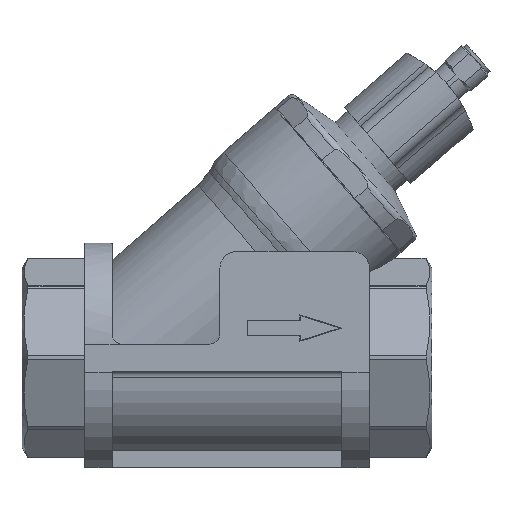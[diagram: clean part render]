
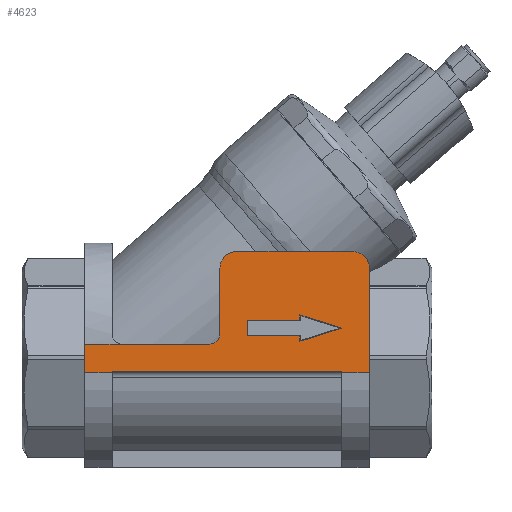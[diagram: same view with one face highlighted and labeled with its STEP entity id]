
A CAD part, top view. The second image highlights one B-rep face of the part: STEP entity #4623.
In plain terms, the highlighted planar face has unit normal (0, 0, 1).
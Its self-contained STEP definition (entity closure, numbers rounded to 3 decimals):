
#48=PLANE('',#4902);
#227=LINE('',#6169,#454);
#258=LINE('',#6426,#485);
#263=LINE('',#6457,#490);
#267=LINE('',#6489,#494);
#302=LINE('',#6803,#529);
#303=LINE('',#6806,#530);
#304=LINE('',#6808,#531);
#305=LINE('',#6810,#532);
#306=LINE('',#6812,#533);
#307=LINE('',#6814,#534);
#308=LINE('',#6816,#535);
#309=LINE('',#6817,#536);
#310=LINE('',#6820,#537);
#311=LINE('',#6822,#538);
#312=LINE('',#6824,#539);
#313=LINE('',#6825,#540);
#314=LINE('',#6827,#541);
#315=LINE('',#6828,#542);
#454=VECTOR('',#5179,1000.);
#485=VECTOR('',#5310,1000.);
#490=VECTOR('',#5327,1000.);
#494=VECTOR('',#5343,1000.);
#529=VECTOR('',#5484,1000.);
#530=VECTOR('',#5485,1000.);
#531=VECTOR('',#5486,1000.);
#532=VECTOR('',#5487,1000.);
#533=VECTOR('',#5488,1000.);
#534=VECTOR('',#5489,1000.);
#535=VECTOR('',#5490,1000.);
#536=VECTOR('',#5491,1000.);
#537=VECTOR('',#5492,1000.);
#538=VECTOR('',#5493,1000.);
#539=VECTOR('',#5494,1000.);
#540=VECTOR('',#5495,1000.);
#541=VECTOR('',#5496,1000.);
#542=VECTOR('',#5497,1000.);
#917=ORIENTED_EDGE('',*,*,#1888,.F.);
#918=ORIENTED_EDGE('',*,*,#1889,.F.);
#919=ORIENTED_EDGE('',*,*,#1890,.F.);
#920=ORIENTED_EDGE('',*,*,#1891,.F.);
#921=ORIENTED_EDGE('',*,*,#1892,.F.);
#922=ORIENTED_EDGE('',*,*,#1893,.F.);
#923=ORIENTED_EDGE('',*,*,#1894,.F.);
#924=ORIENTED_EDGE('',*,*,#1895,.F.);
#925=ORIENTED_EDGE('',*,*,#1896,.T.);
#926=ORIENTED_EDGE('',*,*,#1897,.F.);
#927=ORIENTED_EDGE('',*,*,#1898,.F.);
#928=ORIENTED_EDGE('',*,*,#1799,.T.);
#929=ORIENTED_EDGE('',*,*,#1789,.F.);
#930=ORIENTED_EDGE('',*,*,#1781,.T.);
#931=ORIENTED_EDGE('',*,*,#1779,.F.);
#932=ORIENTED_EDGE('',*,*,#1772,.F.);
#933=ORIENTED_EDGE('',*,*,#1769,.F.);
#934=ORIENTED_EDGE('',*,*,#1899,.T.);
#935=ORIENTED_EDGE('',*,*,#1900,.T.);
#936=ORIENTED_EDGE('',*,*,#1687,.F.);
#937=ORIENTED_EDGE('',*,*,#1901,.F.);
#1687=EDGE_CURVE('',#2181,#2183,#227,.T.);
#1769=EDGE_CURVE('',#2249,#2257,#258,.T.);
#1772=EDGE_CURVE('',#2257,#2259,#2543,.F.);
#1779=EDGE_CURVE('',#2259,#2265,#263,.T.);
#1781=EDGE_CURVE('',#2268,#2265,#2545,.F.);
#1789=EDGE_CURVE('',#2268,#2275,#267,.T.);
#1799=EDGE_CURVE('',#2284,#2275,#2548,.F.);
#1888=EDGE_CURVE('',#2362,#2363,#302,.T.);
#1889=EDGE_CURVE('',#2364,#2362,#303,.T.);
#1890=EDGE_CURVE('',#2365,#2364,#304,.T.);
#1891=EDGE_CURVE('',#2366,#2365,#305,.T.);
#1892=EDGE_CURVE('',#2367,#2366,#306,.T.);
#1893=EDGE_CURVE('',#2368,#2367,#307,.T.);
#1894=EDGE_CURVE('',#2363,#2368,#308,.T.);
#1895=EDGE_CURVE('',#2369,#2370,#309,.T.);
#1896=EDGE_CURVE('',#2369,#2371,#310,.T.);
#1897=EDGE_CURVE('',#2372,#2371,#311,.T.);
#1898=EDGE_CURVE('',#2284,#2372,#312,.T.);
#1899=EDGE_CURVE('',#2249,#2373,#313,.T.);
#1900=EDGE_CURVE('',#2373,#2183,#314,.T.);
#1901=EDGE_CURVE('',#2370,#2181,#315,.T.);
#2181=VERTEX_POINT('',#6167);
#2183=VERTEX_POINT('',#6170);
#2249=VERTEX_POINT('',#6389);
#2257=VERTEX_POINT('',#6423);
#2259=VERTEX_POINT('',#6429);
#2265=VERTEX_POINT('',#6454);
#2268=VERTEX_POINT('',#6466);
#2275=VERTEX_POINT('',#6490);
#2284=VERTEX_POINT('',#6527);
#2362=VERTEX_POINT('',#6804);
#2363=VERTEX_POINT('',#6805);
#2364=VERTEX_POINT('',#6807);
#2365=VERTEX_POINT('',#6809);
#2366=VERTEX_POINT('',#6811);
#2367=VERTEX_POINT('',#6813);
#2368=VERTEX_POINT('',#6815);
#2369=VERTEX_POINT('',#6818);
#2370=VERTEX_POINT('',#6819);
#2371=VERTEX_POINT('',#6821);
#2372=VERTEX_POINT('',#6823);
#2373=VERTEX_POINT('',#6826);
#2543=CIRCLE('',#4839,3.);
#2545=CIRCLE('',#4845,5.);
#2548=CIRCLE('',#4855,5.);
#2717=EDGE_LOOP('',(#917,#918,#919,#920,#921,#922,#923));
#2718=EDGE_LOOP('',(#924,#925,#926,#927,#928,#929,#930,#931,#932,#933,#934,
#935,#936,#937));
#2943=FACE_BOUND('',#2717,.T.);
#2944=FACE_BOUND('',#2718,.T.);
#4623=ADVANCED_FACE('',(#2943,#2944),#48,.F.);
#4839=AXIS2_PLACEMENT_3D('',#6437,#5314,#5315);
#4845=AXIS2_PLACEMENT_3D('',#6465,#5330,#5331);
#4855=AXIS2_PLACEMENT_3D('',#6526,#5357,#5358);
#4902=AXIS2_PLACEMENT_3D('',#6802,#5482,#5483);
#5179=DIRECTION('',(-1.,0.,0.));
#5310=DIRECTION('',(1.,0.,0.));
#5314=DIRECTION('',(0.,0.,-1.));
#5315=DIRECTION('',(-1.,0.,0.));
#5327=DIRECTION('',(0.,1.,0.));
#5330=DIRECTION('',(0.,0.,-1.));
#5331=DIRECTION('',(-1.,0.,0.));
#5343=DIRECTION('',(1.,0.,0.));
#5357=DIRECTION('',(0.,0.,-1.));
#5358=DIRECTION('',(-1.,0.,0.));
#5482=DIRECTION('',(0.,0.,-1.));
#5483=DIRECTION('',(-1.,0.,0.));
#5484=DIRECTION('',(1.,0.,0.));
#5485=DIRECTION('',(0.,-1.,0.));
#5486=DIRECTION('',(-1.,0.,0.));
#5487=DIRECTION('',(0.,-1.,0.));
#5488=DIRECTION('',(-0.954,0.301,0.));
#5489=DIRECTION('',(0.954,0.301,0.));
#5490=DIRECTION('',(0.,-1.,0.));
#5491=DIRECTION('',(-1.,0.,0.));
#5492=DIRECTION('',(0.,-1.,0.));
#5493=DIRECTION('',(-1.,0.,0.));
#5494=DIRECTION('',(0.,-1.,0.));
#5495=DIRECTION('',(-1.,0.,0.));
#5496=DIRECTION('',(0.,-1.,0.));
#5497=DIRECTION('',(0.,-1.,0.));
#6167=CARTESIAN_POINT('',(26.79,-4.541,30.));
#6169=CARTESIAN_POINT('',(102.95,-4.541,30.));
#6170=CARTESIAN_POINT('',(18.55,-4.541,30.));
#6389=CARTESIAN_POINT('',(29.7,4.,30.));
#6423=CARTESIAN_POINT('',(55.668,4.,30.));
#6426=CARTESIAN_POINT('',(102.95,4.,30.));
#6429=CARTESIAN_POINT('',(58.668,7.,30.));
#6437=CARTESIAN_POINT('',(55.668,7.,30.));
#6454=CARTESIAN_POINT('',(58.668,26.46,30.));
#6457=CARTESIAN_POINT('',(58.668,35.,30.));
#6465=CARTESIAN_POINT('',(63.668,26.46,30.));
#6466=CARTESIAN_POINT('',(63.668,31.46,30.));
#6489=CARTESIAN_POINT('',(102.95,31.46,30.));
#6490=CARTESIAN_POINT('',(97.95,31.46,30.));
#6526=CARTESIAN_POINT('',(97.95,26.46,30.));
#6527=CARTESIAN_POINT('',(102.95,26.46,30.));
#6802=CARTESIAN_POINT('',(102.95,35.,30.));
#6803=CARTESIAN_POINT('',(66.8,6.465,30.));
#6804=CARTESIAN_POINT('',(66.8,6.465,30.));
#6805=CARTESIAN_POINT('',(82.36,6.465,30.));
#6806=CARTESIAN_POINT('',(66.8,11.035,30.));
#6807=CARTESIAN_POINT('',(66.8,11.035,30.));
#6808=CARTESIAN_POINT('',(82.36,11.035,30.));
#6809=CARTESIAN_POINT('',(82.36,11.035,30.));
#6810=CARTESIAN_POINT('',(82.36,12.67,30.));
#6811=CARTESIAN_POINT('',(82.36,12.67,30.));
#6812=CARTESIAN_POINT('',(94.8,8.75,30.));
#6813=CARTESIAN_POINT('',(94.8,8.75,30.));
#6814=CARTESIAN_POINT('',(82.36,4.83,30.));
#6815=CARTESIAN_POINT('',(82.36,4.83,30.));
#6816=CARTESIAN_POINT('',(82.36,6.465,30.));
#6817=CARTESIAN_POINT('',(102.95,-4.,30.));
#6818=CARTESIAN_POINT('',(94.71,-4.,30.));
#6819=CARTESIAN_POINT('',(26.79,-4.,30.));
#6820=CARTESIAN_POINT('',(94.71,35.,30.));
#6821=CARTESIAN_POINT('',(94.71,-4.541,30.));
#6822=CARTESIAN_POINT('',(102.95,-4.541,30.));
#6823=CARTESIAN_POINT('',(102.95,-4.541,30.));
#6824=CARTESIAN_POINT('',(102.95,35.,30.));
#6825=CARTESIAN_POINT('',(33.55,4.,30.));
#6826=CARTESIAN_POINT('',(18.55,4.,30.));
#6827=CARTESIAN_POINT('',(18.55,35.,30.));
#6828=CARTESIAN_POINT('',(26.79,35.,30.));
